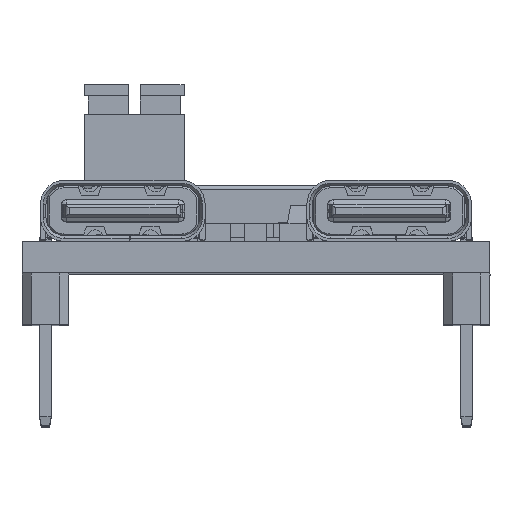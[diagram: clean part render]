
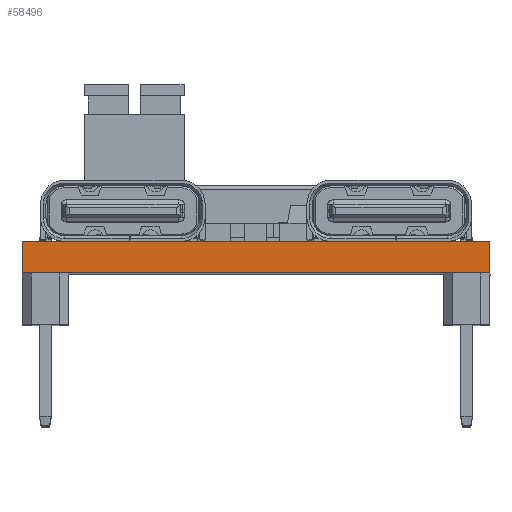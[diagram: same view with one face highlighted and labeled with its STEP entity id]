
A CAD part, top view. The second image highlights one B-rep face of the part: STEP entity #58496.
In plain terms, the highlighted planar face has unit normal (0, 0, 1).
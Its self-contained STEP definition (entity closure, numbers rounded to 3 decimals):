
#2861 = ORIENTED_EDGE ( 'NONE', *, *, #32773, .F. ) ;
#3246 = CARTESIAN_POINT ( 'NONE',  ( 12.7, 66.692, 25.9 ) ) ;
#5447 = CARTESIAN_POINT ( 'NONE',  ( -12.7, 4.5, 25.9 ) ) ;
#6529 = ORIENTED_EDGE ( 'NONE', *, *, #90894, .T. ) ;
#7567 = VECTOR ( 'NONE', #49974, 1000. ) ;
#10659 = VECTOR ( 'NONE', #124547, 1000. ) ;
#11738 = EDGE_CURVE ( 'NONE', #57632, #131573, #68991, .T. ) ;
#12558 = CARTESIAN_POINT ( 'NONE',  ( 12.7, 2.8, 25.9 ) ) ;
#12571 = AXIS2_PLACEMENT_3D ( 'NONE', #73858, #108934, #118501 ) ;
#14808 = CARTESIAN_POINT ( 'NONE',  ( -12.7, 4.5, 25.9 ) ) ;
#28824 = CARTESIAN_POINT ( 'NONE',  ( -12.7, 2.8, 25.9 ) ) ;
#31332 = VECTOR ( 'NONE', #79584, 1000. ) ;
#32773 = EDGE_CURVE ( 'NONE', #131573, #143818, #34032, .T. ) ;
#34032 = LINE ( 'NONE', #3246, #139422 ) ;
#34454 = CARTESIAN_POINT ( 'NONE',  ( -12.7, 2.8, 25.9 ) ) ;
#43039 = CARTESIAN_POINT ( 'NONE',  ( -12.7, 66.692, 25.9 ) ) ;
#49974 = DIRECTION ( 'NONE',  ( 1., 0., 0. ) ) ;
#52597 = PLANE ( 'NONE',  #12571 ) ;
#54011 = LINE ( 'NONE', #43039, #31332 ) ;
#56088 = EDGE_CURVE ( 'NONE', #92284, #143818, #71997, .T. ) ;
#57632 = VERTEX_POINT ( 'NONE', #5447 ) ;
#58496 = ADVANCED_FACE ( 'NONE', ( #95744 ), #52597, .F. ) ;
#68991 = LINE ( 'NONE', #14808, #10659 ) ;
#71997 = LINE ( 'NONE', #28824, #7567 ) ;
#73858 = CARTESIAN_POINT ( 'NONE',  ( -12.7, 66.692, 25.9 ) ) ;
#79584 = DIRECTION ( 'NONE',  ( 0., -1., 0. ) ) ;
#90894 = EDGE_CURVE ( 'NONE', #57632, #92284, #54011, .T. ) ;
#92284 = VERTEX_POINT ( 'NONE', #34454 ) ;
#94984 = ORIENTED_EDGE ( 'NONE', *, *, #56088, .T. ) ;
#95744 = FACE_OUTER_BOUND ( 'NONE', #138057, .T. ) ;
#103445 = DIRECTION ( 'NONE',  ( 0., -1., 0. ) ) ;
#108934 = DIRECTION ( 'NONE',  ( 0., 0., -1. ) ) ;
#118501 = DIRECTION ( 'NONE',  ( -1., 0., 0. ) ) ;
#120202 = CARTESIAN_POINT ( 'NONE',  ( 12.7, 4.5, 25.9 ) ) ;
#124547 = DIRECTION ( 'NONE',  ( 1., 0., 0. ) ) ;
#130672 = ORIENTED_EDGE ( 'NONE', *, *, #11738, .F. ) ;
#131573 = VERTEX_POINT ( 'NONE', #120202 ) ;
#138057 = EDGE_LOOP ( 'NONE', ( #130672, #6529, #94984, #2861 ) ) ;
#139422 = VECTOR ( 'NONE', #103445, 1000. ) ;
#143818 = VERTEX_POINT ( 'NONE', #12558 ) ;
